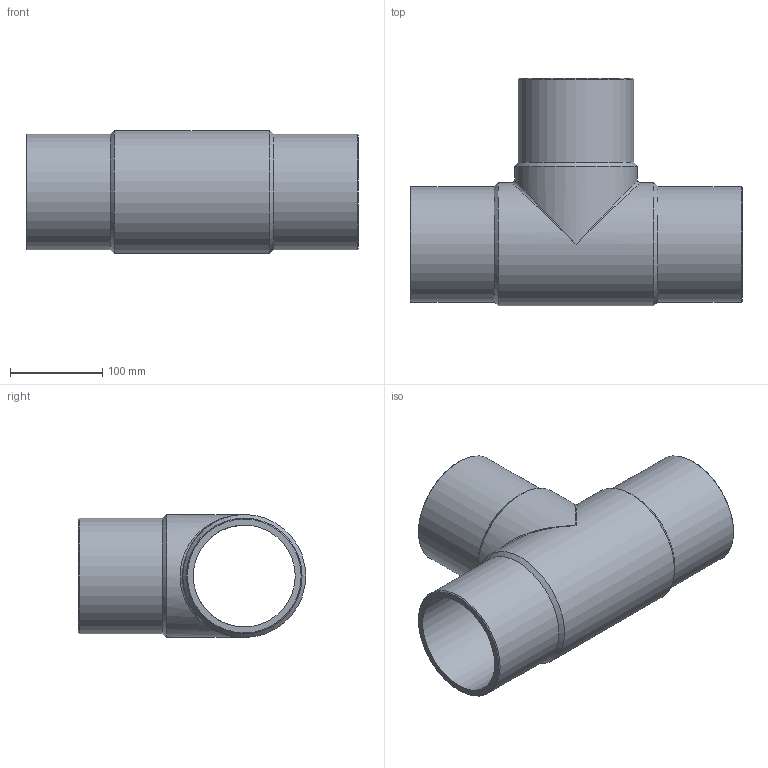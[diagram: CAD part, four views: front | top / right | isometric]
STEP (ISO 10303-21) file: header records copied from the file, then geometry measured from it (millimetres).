
FILE_DESCRIPTION(/* description */ ('Unknown'),/* implementation_level */ '2;1');
FILE_NAME(/* name */ 'TP125B',/* time_stamp */ '2021-08-13T12:47:39+02:00',/* author */ ('Unknown'),/* organization */ ('Unknown'),/* preprocessor_version */ 'ST-DEVELOPER v16.7',/* originating_system */ 'Solid Edge',/* authorisation */ 'Unknown');
FILE_SCHEMA (('AUTOMOTIVE_DESIGN {1 0 10303 214 3 1 1}'));
Length unit declared in the file: millimetre
Products named in the file (1): TP125B
Bounding box: 359 x 246 x 133 mm (x, y, z)
Volume: 1553195.4 mm3; surface area: 353883.3 mm2
Topology: 1 solids, 1 shells, 18 faces, 44 edges, 23 vertices
Faces by surface type: cylinder 7, cone 6, plane 3, bspline 2
Full cylindrical faces by diameter (mm): 110.2 x2, 125 x3, 133 x2
Entity records: 504 total; most frequent: CARTESIAN_POINT 147, DIRECTION 76, ORIENTED_EDGE 42, AXIS2_PLACEMENT_3D 38, EDGE_LOOP 36, FACE_BOUND 36, EDGE_CURVE 21, VERTEX_POINT 19
